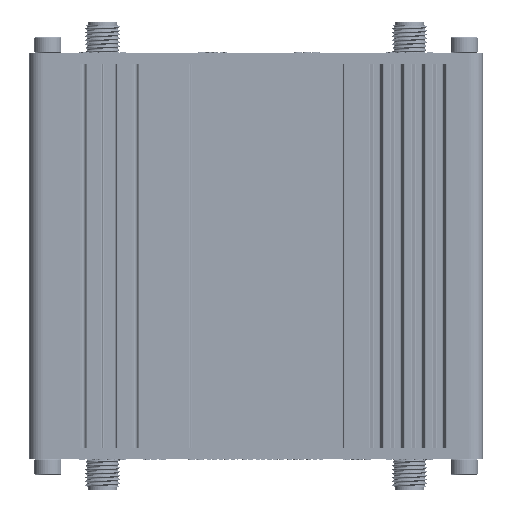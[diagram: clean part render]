
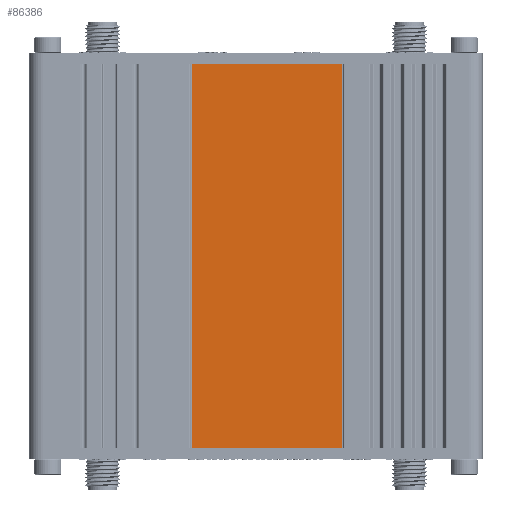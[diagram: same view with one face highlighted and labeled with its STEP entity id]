
A CAD part, front view. The second image highlights one B-rep face of the part: STEP entity #86386.
In plain terms, the highlighted planar face has unit normal (0, -1, 0).
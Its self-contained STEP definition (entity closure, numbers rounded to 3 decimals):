
#26467 = ORIENTED_EDGE ( 'NONE', *, *, #575251, .T. ) ;
#29188 = VECTOR ( 'NONE', #737311, 1000. ) ;
#49031 = VERTEX_POINT ( 'NONE', #805544 ) ;
#62726 = ORIENTED_EDGE ( 'NONE', *, *, #99150, .F. ) ;
#67516 = LINE ( 'NONE', #661089, #29188 ) ;
#86386 = ADVANCED_FACE ( 'NONE', ( #735460 ), #270150, .F. ) ;
#99150 = EDGE_CURVE ( 'NONE', #745113, #256746, #612099, .T. ) ;
#191072 = VECTOR ( 'NONE', #251486, 1000. ) ;
#208888 = ORIENTED_EDGE ( 'NONE', *, *, #811101, .T. ) ;
#242890 = DIRECTION ( 'NONE',  ( -1., 0., 0. ) ) ;
#251486 = DIRECTION ( 'NONE',  ( 0., 0., 1. ) ) ;
#256746 = VERTEX_POINT ( 'NONE', #744166 ) ;
#270150 = PLANE ( 'NONE',  #545526 ) ;
#274425 = EDGE_LOOP ( 'NONE', ( #208888, #433754, #62726, #26467 ) ) ;
#323392 = LINE ( 'NONE', #641613, #191072 ) ;
#333792 = CARTESIAN_POINT ( 'NONE',  ( 16., -12.25, 0. ) ) ;
#340732 = CARTESIAN_POINT ( 'NONE',  ( 16., -12.25, 0. ) ) ;
#371938 = VERTEX_POINT ( 'NONE', #642763 ) ;
#398163 = EDGE_CURVE ( 'NONE', #371938, #256746, #67516, .T. ) ;
#433754 = ORIENTED_EDGE ( 'NONE', *, *, #398163, .T. ) ;
#445548 = VECTOR ( 'NONE', #472100, 1000. ) ;
#446326 = LINE ( 'NONE', #823979, #677109 ) ;
#472100 = DIRECTION ( 'NONE',  ( -1., 0., 0. ) ) ;
#545526 = AXIS2_PLACEMENT_3D ( 'NONE', #333792, #651959, #671782 ) ;
#575251 = EDGE_CURVE ( 'NONE', #745113, #49031, #323392, .T. ) ;
#612099 = LINE ( 'NONE', #340732, #445548 ) ;
#641613 = CARTESIAN_POINT ( 'NONE',  ( 15.75, -12.25, 70.2 ) ) ;
#642763 = CARTESIAN_POINT ( 'NONE',  ( -11.75, -12.25, 70.2 ) ) ;
#651959 = DIRECTION ( 'NONE',  ( 0., 1., 0. ) ) ;
#661089 = CARTESIAN_POINT ( 'NONE',  ( -11.75, -12.25, 0. ) ) ;
#671782 = DIRECTION ( 'NONE',  ( -1., 0., 0. ) ) ;
#677109 = VECTOR ( 'NONE', #242890, 1000. ) ;
#735460 = FACE_OUTER_BOUND ( 'NONE', #274425, .T. ) ;
#737311 = DIRECTION ( 'NONE',  ( 0., 0., -1. ) ) ;
#744166 = CARTESIAN_POINT ( 'NONE',  ( -11.75, -12.25, 0. ) ) ;
#745113 = VERTEX_POINT ( 'NONE', #830545 ) ;
#805544 = CARTESIAN_POINT ( 'NONE',  ( 15.75, -12.25, 70.2 ) ) ;
#811101 = EDGE_CURVE ( 'NONE', #49031, #371938, #446326, .T. ) ;
#823979 = CARTESIAN_POINT ( 'NONE',  ( 16., -12.25, 70.2 ) ) ;
#830545 = CARTESIAN_POINT ( 'NONE',  ( 15.75, -12.25, 0. ) ) ;
